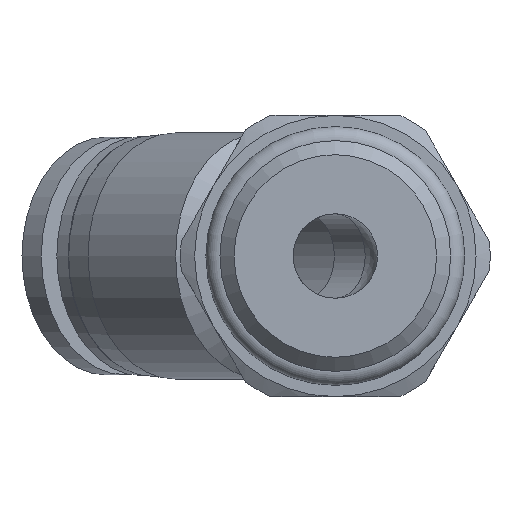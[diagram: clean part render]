
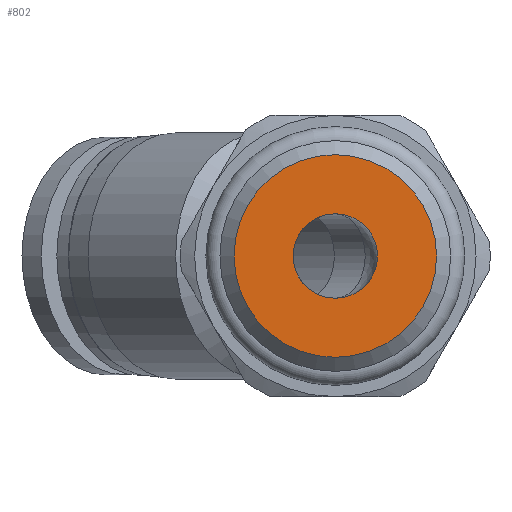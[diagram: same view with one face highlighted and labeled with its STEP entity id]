
A CAD part, front view. The second image highlights one B-rep face of the part: STEP entity #802.
In plain terms, the highlighted planar face has unit normal (0, -1, 0).
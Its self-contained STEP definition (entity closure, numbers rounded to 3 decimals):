
#41=FACE_BOUND('',#246,.T.);
#104=PLANE('',#922);
#162=FACE_OUTER_BOUND('',#245,.T.);
#245=EDGE_LOOP('',(#722));
#246=EDGE_LOOP('',(#723));
#276=CIRCLE('',#864,3.);
#303=CIRCLE('',#921,7.2);
#389=VERTEX_POINT('',#1378);
#412=VERTEX_POINT('',#1458);
#486=EDGE_CURVE('',#389,#389,#276,.T.);
#515=EDGE_CURVE('',#412,#412,#303,.T.);
#722=ORIENTED_EDGE('',*,*,#515,.T.);
#723=ORIENTED_EDGE('',*,*,#486,.T.);
#802=ADVANCED_FACE('',(#162,#41),#104,.T.);
#864=AXIS2_PLACEMENT_3D('',#1379,#1062,#1063);
#921=AXIS2_PLACEMENT_3D('',#1459,#1176,#1177);
#922=AXIS2_PLACEMENT_3D('',#1460,#1178,#1179);
#1062=DIRECTION('center_axis',(0.,1.,0.));
#1063=DIRECTION('ref_axis',(-1.,0.,0.));
#1176=DIRECTION('center_axis',(0.,-1.,0.));
#1177=DIRECTION('ref_axis',(1.,0.,0.));
#1178=DIRECTION('center_axis',(0.,-1.,0.));
#1179=DIRECTION('ref_axis',(0.,0.,-1.));
#1378=CARTESIAN_POINT('',(3.,0.,0.));
#1379=CARTESIAN_POINT('Origin',(0.,0.,0.));
#1458=CARTESIAN_POINT('',(7.2,0.,0.));
#1459=CARTESIAN_POINT('Origin',(0.,0.,
0.));
#1460=CARTESIAN_POINT('Origin',(0.,0.,0.));
